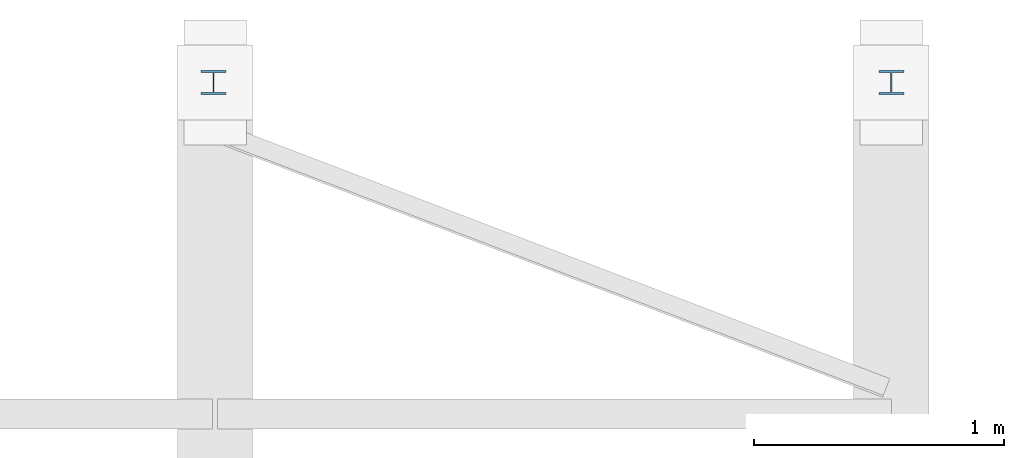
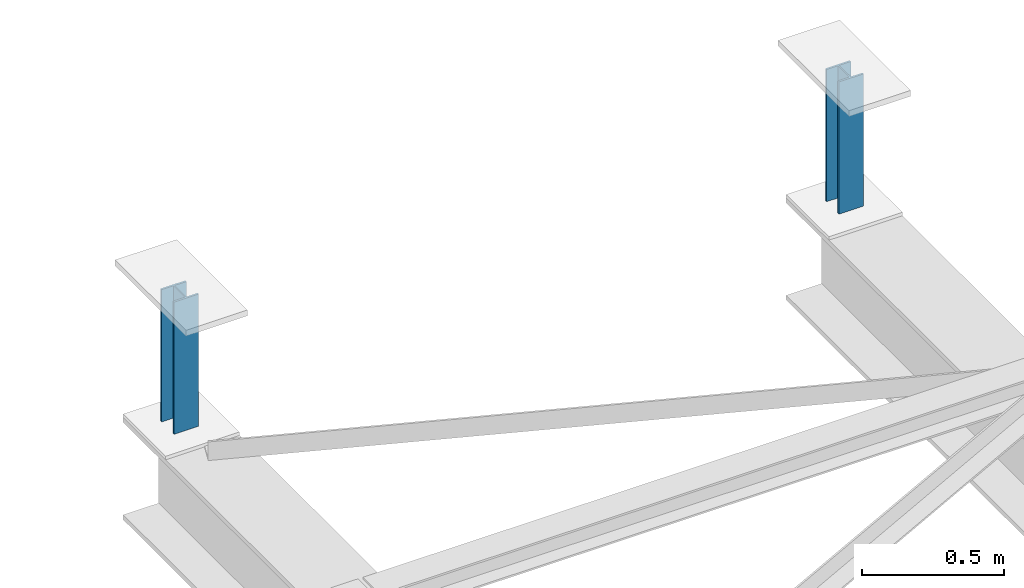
# One storey, part 35 of 139: 2 columns.
"""IFC2X3 building model written with IfcOpenShell, lengths in metres."""

from ifc_helpers import new_model, entity, si_unit, converted_unit, derived_unit, frame, origin, place, context, subcontext, project, spatial, polyline, outline, extrude, material, element, save


model = new_model("IFC2X3")

# Units and contexts
model_context = context("Model", 3, precision=1e-05, world=origin())
body_context = subcontext(model_context, "Body", "Model", "MODEL_VIEW")
ifc_project = project(units=[si_unit("LENGTHUNIT", "METRE"), si_unit("AREAUNIT", "SQUARE_METRE"), si_unit("VOLUMEUNIT", "CUBIC_METRE"), si_unit("MASSUNIT", "GRAM", prefix="KILO"), converted_unit("PLANEANGLEUNIT", "DEGREE", entity("IfcPlaneAngleMeasure", 0.0174532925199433), si_unit("PLANEANGLEUNIT", "RADIAN"), dimensions=[0, 0, 0, 0, 0, 0, 0]), derived_unit("THERMALTRANSMITTANCEUNIT", [(si_unit("POWERUNIT", "WATT"), 1), (si_unit("THERMODYNAMICTEMPERATUREUNIT", "KELVIN"), -1), (si_unit("LENGTHUNIT", "METRE"), -2)]), derived_unit("VOLUMETRICFLOWRATEUNIT", [(si_unit("LENGTHUNIT", "METRE"), 3), (converted_unit("TIMEUNIT", "hour", entity("IfcTimeMeasure", 3600.0), si_unit("TIMEUNIT", "SECOND"), dimensions=[0, 0, 1, 0, 0, 0, 0]), -1), (si_unit("LENGTHUNIT", "METRE"), -1)])], contexts=[model_context])

# Site, building, storey
site_placement = place(None, origin())
site = spatial("IfcSite", under=ifc_project, at=site_placement, Name="TWP_Speiseverteilzentrum SBW VZ II", CompositionType="ELEMENT")
building_placement = place(site_placement, origin())
building = spatial("IfcBuilding", under=site, at=building_placement, Name="Speiseverteilzentrum SBW VZ II", CompositionType="ELEMENT")
storey_placement = place(building_placement, frame((0.0, 0.0, 7.1307)))
storey = spatial("IfcBuildingStorey", under=building, at=storey_placement, Name="Wartung_FFB", CompositionType="ELEMENT", Elevation=7.1307)

# Columns
ifc_material_1 = material(Name="S235")
column_1_placement = place(storey_placement, frame((117.993250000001, 85.5020000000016, -0.175)))
element("IfcColumn", 1, at=column_1_placement, inside=storey, material=ifc_material_1, Name="Verbindungsstück", context=body_context, shape_type="SweptSolid", body=[
    extrude(outline(polyline([(-0.05, 0.048), (-0.05, 0.04), (-0.0025, 0.04), (-0.00250000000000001, -0.0399999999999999), (-0.05, -0.0399999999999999), (-0.05, -0.048), (0.05, -0.048), (0.05, -0.0399999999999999), (0.00249999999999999, -0.0399999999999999), (0.0025, 0.04), (0.05, 0.04), (0.05, 0.048), (-0.05, 0.048)])), frame((0.05, 0.048, 0.0), z_axis=(0.0, 0.0, 1.0), x_axis=(1.0, 0.0, 0.0)), (0.0, 0.0, 1.0), 0.56929999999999),
])
ifc_material_2 = material(Name="S235")
column_2_placement = place(storey_placement, frame((120.700000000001, 85.5020000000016, -0.175)))
element("IfcColumn", 2, at=column_2_placement, inside=storey, material=ifc_material_2, Name="Verbindungsstück", context=body_context, shape_type="SweptSolid", body=[
    extrude(outline(polyline([(-0.05, 0.048), (-0.05, 0.04), (-0.0025, 0.04), (-0.00250000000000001, -0.0399999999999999), (-0.05, -0.0399999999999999), (-0.05, -0.048), (0.05, -0.048), (0.05, -0.0399999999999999), (0.00249999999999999, -0.0399999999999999), (0.0025, 0.04), (0.05, 0.04), (0.05, 0.048), (-0.05, 0.048)])), frame((0.05, 0.048, 0.0), z_axis=(0.0, 0.0, 1.0), x_axis=(1.0, 0.0, 0.0)), (0.0, 0.0, 1.0), 0.56929999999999),
])

save(model, "model.ifc")
